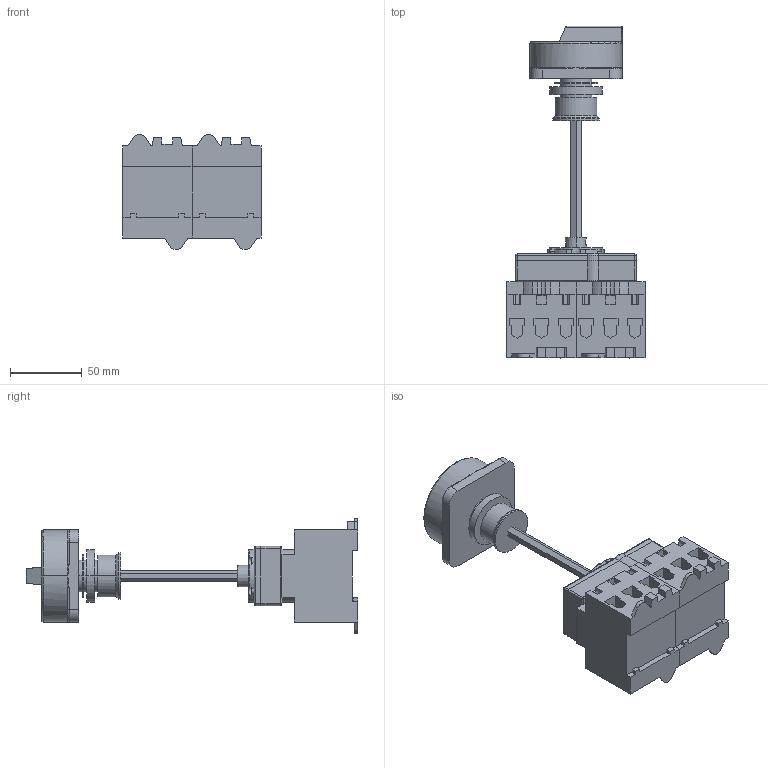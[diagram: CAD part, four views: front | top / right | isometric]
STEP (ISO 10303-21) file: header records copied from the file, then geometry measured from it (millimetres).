
FILE_DESCRIPTION (( 'STEP AP203' ), '1' );
FILE_NAME ('LTS63_80 VZVHN4 A6.STEP', '2014-05-14T06:06:28', ( '' ), ( '' ), 'SwSTEP 2.0', 'SolidWorks 2014', '' );
FILE_SCHEMA (( 'CONFIG_CONTROL_DESIGN' ));
Length unit declared in the file: millimetre
Products named in the file (9): Rastwerk; 8184_7 CP8184-1; Zwischenring; Achse TK-LT_130mm; TK2Z H4; LTS63_80 VZVHN4 A6; LTS63 VZV A3_Unterteil; HPT I Umschaltwerk LT; HPT II Umschaltwerk LT
Assembly tree (9 placements, depth 3):
  LTS63_80 VZVHN4 A6
    LTS63 VZV A3_Unterteil  x2
    Rastwerk
      HPT I Umschaltwerk LT
      HPT II Umschaltwerk LT
    8184_7 CP8184-1
    Zwischenring
    Achse TK-LT_130mm
    TK2Z H4
Bounding box: 96 x 230.7 x 80 mm (x, y, z)
Volume: 424373.4 mm3; surface area: 101251.1 mm2
Topology: 8 solids, 8 shells, 606 faces, 1597 edges, 1017 vertices
Faces by surface type: plane 350, cylinder 168, cone 45, bspline 18, torus 17, sphere 8
Entity records: 14773 total; most frequent: CARTESIAN_POINT 3246, DIRECTION 2222, ORIENTED_EDGE 2210, EDGE_CURVE 1105, AXIS2_PLACEMENT_3D 784, VERTEX_POINT 705, VECTOR 654, LINE 654
